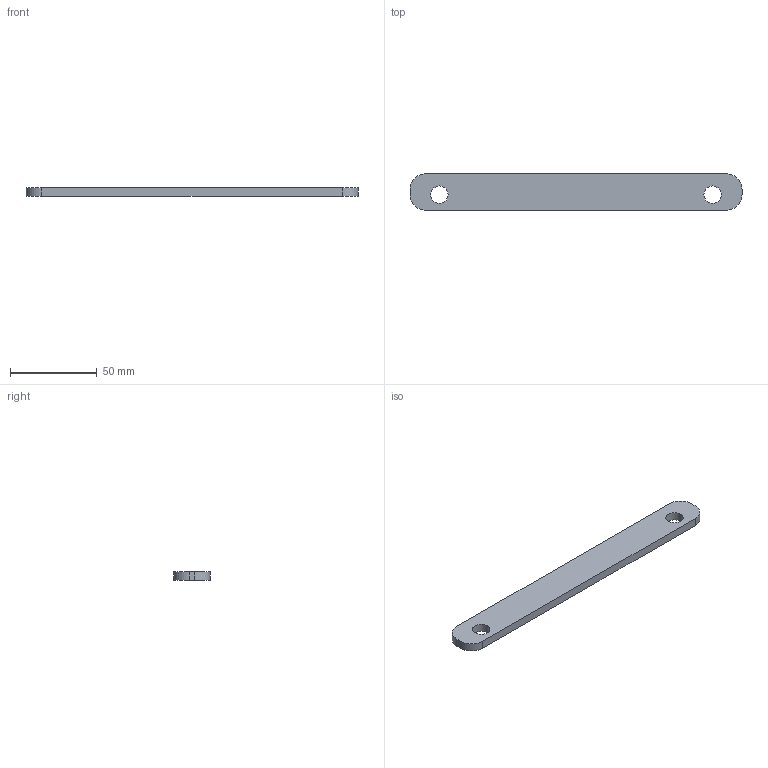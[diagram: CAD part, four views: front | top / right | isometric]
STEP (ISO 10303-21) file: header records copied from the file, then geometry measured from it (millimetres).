
FILE_DESCRIPTION(/* description */ (''),/* implementation_level */ '2;1');
FILE_NAME(/* name */ 'D:\3d\leaf_lower_spacer.stp',/* time_stamp */ '2019-11-10T16:37:06-08:00',/* author */ ('RUARK'),/* organization */ (''),/* preprocessor_version */ 'ST-DEVELOPER v18',/* originating_system */ 'Autodesk Inventor 2020',/* authorisation */ '');
FILE_SCHEMA (('AUTOMOTIVE_DESIGN { 1 0 10303 214 3 1 1 }'));
Length unit declared in the file: millimetre
Products named in the file (1): leaf_lower_spacer
Bounding box: 191.85 x 21 x 5 mm (x, y, z)
Volume: 19011.2 mm3; surface area: 9969.9 mm2
Topology: 1 solids, 1 shells, 12 faces, 30 edges, 20 vertices
Faces by surface type: cylinder 6, plane 6
Full cylindrical faces by diameter (mm): 10 x2
Entity records: 415 total; most frequent: DIRECTION 68, CARTESIAN_POINT 63, ORIENTED_EDGE 60, EDGE_CURVE 30, AXIS2_PLACEMENT_3D 25, VERTEX_POINT 20, LINE 18, VECTOR 18
